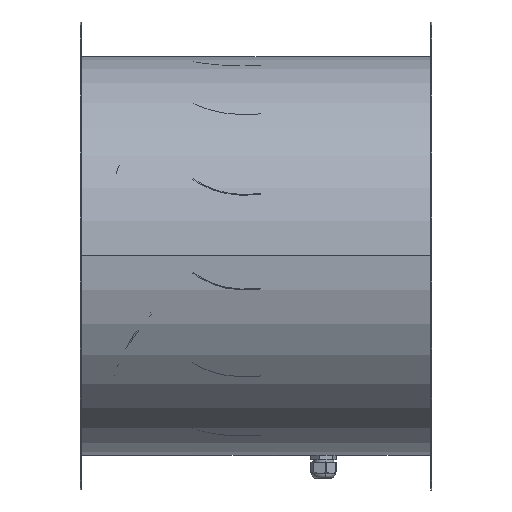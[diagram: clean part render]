
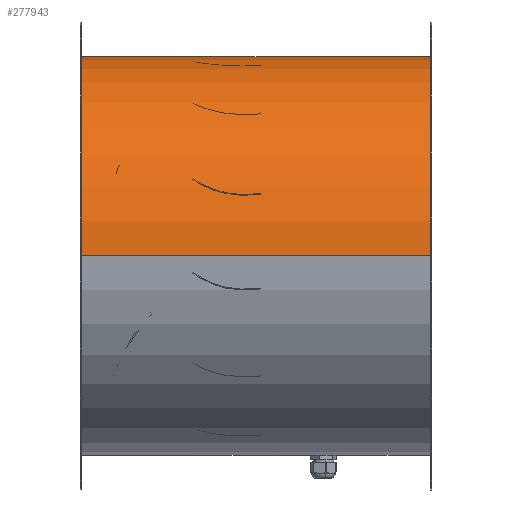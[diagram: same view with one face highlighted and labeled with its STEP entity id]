
A CAD part, top view. The second image highlights one B-rep face of the part: STEP entity #277943.
In plain terms, the highlighted cylindrical face has radius 251.25 mm (diameter 502.5 mm), a partial arc.
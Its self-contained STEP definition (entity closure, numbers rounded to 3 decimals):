
#4222 = AXIS2_PLACEMENT_3D ( 'NONE', #219582, #50629, #247954 ) ;
#12097 = VECTOR ( 'NONE', #232219, 1000. ) ;
#22940 = VERTEX_POINT ( 'NONE', #59041 ) ;
#27096 = EDGE_CURVE ( 'NONE', #124964, #126587, #252460, .T. ) ;
#30642 = CARTESIAN_POINT ( 'NONE',  ( -125., 0., 0. ) ) ;
#45542 = DIRECTION ( 'NONE',  ( 1., 0., 0. ) ) ;
#50629 = DIRECTION ( 'NONE',  ( 1., 0., 0. ) ) ;
#51178 = EDGE_CURVE ( 'NONE', #91725, #124964, #312246, .T. ) ;
#58101 = CARTESIAN_POINT ( 'NONE',  ( 313., 0., 0. ) ) ;
#59011 = DIRECTION ( 'NONE',  ( 0., 0., 1. ) ) ;
#59041 = CARTESIAN_POINT ( 'NONE',  ( 313.625, 0., 251.25 ) ) ;
#62281 = VECTOR ( 'NONE', #45542, 1000. ) ;
#84565 = DIRECTION ( 'NONE',  ( 1., 0., 0. ) ) ;
#86502 = DIRECTION ( 'NONE',  ( 0., 0., 1. ) ) ;
#89251 = CARTESIAN_POINT ( 'NONE',  ( -125., 0., -251.25 ) ) ;
#91725 = VERTEX_POINT ( 'NONE', #292661 ) ;
#92093 = CARTESIAN_POINT ( 'NONE',  ( 313.625, 0., -251.25 ) ) ;
#94841 = CYLINDRICAL_SURFACE ( 'NONE', #115600, 251.25 ) ;
#95162 = CARTESIAN_POINT ( 'NONE',  ( -125.625, 0., 0. ) ) ;
#97443 = CARTESIAN_POINT ( 'NONE',  ( -125., 0., -251.25 ) ) ;
#104703 = ORIENTED_EDGE ( 'NONE', *, *, #310597, .T. ) ;
#112065 = VERTEX_POINT ( 'NONE', #212396 ) ;
#114008 = DIRECTION ( 'NONE',  ( 1., 0., 0. ) ) ;
#115600 = AXIS2_PLACEMENT_3D ( 'NONE', #30642, #141704, #59011 ) ;
#123513 = DIRECTION ( 'NONE',  ( 0., 0., 1. ) ) ;
#124964 = VERTEX_POINT ( 'NONE', #337019 ) ;
#125802 = DIRECTION ( 'NONE',  ( 1., 0., 0. ) ) ;
#126587 = VERTEX_POINT ( 'NONE', #349060 ) ;
#131240 = EDGE_CURVE ( 'NONE', #315690, #22940, #171665, .T. ) ;
#132815 = AXIS2_PLACEMENT_3D ( 'NONE', #58101, #255425, #86502 ) ;
#137491 = ORIENTED_EDGE ( 'NONE', *, *, #131240, .F. ) ;
#140962 = ORIENTED_EDGE ( 'NONE', *, *, #239327, .F. ) ;
#141704 = DIRECTION ( 'NONE',  ( 1., 0., 0. ) ) ;
#155383 = VECTOR ( 'NONE', #114008, 1000. ) ;
#168634 = CIRCLE ( 'NONE', #170997, 251.25 ) ;
#169915 = FACE_OUTER_BOUND ( 'NONE', #253408, .T. ) ;
#170997 = AXIS2_PLACEMENT_3D ( 'NONE', #95162, #292404, #123513 ) ;
#171665 = CIRCLE ( 'NONE', #4222, 251.25 ) ;
#186869 = LINE ( 'NONE', #97443, #328045 ) ;
#202106 = EDGE_CURVE ( 'NONE', #126587, #361243, #362345, .T. ) ;
#212396 = CARTESIAN_POINT ( 'NONE',  ( 313., 0., -251.25 ) ) ;
#219582 = CARTESIAN_POINT ( 'NONE',  ( 313.625, 0., 0. ) ) ;
#230445 = LINE ( 'NONE', #311275, #155383 ) ;
#232219 = DIRECTION ( 'NONE',  ( 1., 0., 0. ) ) ;
#233271 = ORIENTED_EDGE ( 'NONE', *, *, #246696, .T. ) ;
#239327 = EDGE_CURVE ( 'NONE', #112065, #315690, #186869, .T. ) ;
#244070 = CARTESIAN_POINT ( 'NONE',  ( -125., 3.015, -251.232 ) ) ;
#246696 = EDGE_CURVE ( 'NONE', #276455, #22940, #230445, .T. ) ;
#247954 = DIRECTION ( 'NONE',  ( 0., 0., 1. ) ) ;
#252460 = CIRCLE ( 'NONE', #270356, 251.25 ) ;
#253408 = EDGE_LOOP ( 'NONE', ( #282778, #265438, #233271, #137491, #140962, #104703, #352114, #351330 ) ) ;
#253514 = CARTESIAN_POINT ( 'NONE',  ( -125., 0., 0. ) ) ;
#255425 = DIRECTION ( 'NONE',  ( 1., 0., 0. ) ) ;
#265438 = ORIENTED_EDGE ( 'NONE', *, *, #365574, .T. ) ;
#270356 = AXIS2_PLACEMENT_3D ( 'NONE', #253514, #84565, #281822 ) ;
#273202 = CIRCLE ( 'NONE', #132815, 251.25 ) ;
#276455 = VERTEX_POINT ( 'NONE', #304501 ) ;
#277943 = ADVANCED_FACE ( 'NONE', ( #169915 ), #94841, .T. ) ;
#281822 = DIRECTION ( 'NONE',  ( 0., 0., 1. ) ) ;
#282778 = ORIENTED_EDGE ( 'NONE', *, *, #51178, .F. ) ;
#292404 = DIRECTION ( 'NONE',  ( 1., 0., 0. ) ) ;
#292661 = CARTESIAN_POINT ( 'NONE',  ( -125.625, 0., -251.25 ) ) ;
#304501 = CARTESIAN_POINT ( 'NONE',  ( -125.625, 0., 251.25 ) ) ;
#310597 = EDGE_CURVE ( 'NONE', #112065, #361243, #273202, .T. ) ;
#311275 = CARTESIAN_POINT ( 'NONE',  ( -125., 0., 251.25 ) ) ;
#312246 = LINE ( 'NONE', #89251, #12097 ) ;
#315690 = VERTEX_POINT ( 'NONE', #92093 ) ;
#319994 = CARTESIAN_POINT ( 'NONE',  ( 313., 3.015, -251.232 ) ) ;
#328045 = VECTOR ( 'NONE', #125802, 1000. ) ;
#337019 = CARTESIAN_POINT ( 'NONE',  ( -125., 0., -251.25 ) ) ;
#349060 = CARTESIAN_POINT ( 'NONE',  ( -125., 3.015, -251.232 ) ) ;
#351330 = ORIENTED_EDGE ( 'NONE', *, *, #27096, .F. ) ;
#352114 = ORIENTED_EDGE ( 'NONE', *, *, #202106, .F. ) ;
#361243 = VERTEX_POINT ( 'NONE', #319994 ) ;
#362345 = LINE ( 'NONE', #244070, #62281 ) ;
#365574 = EDGE_CURVE ( 'NONE', #91725, #276455, #168634, .T. ) ;
